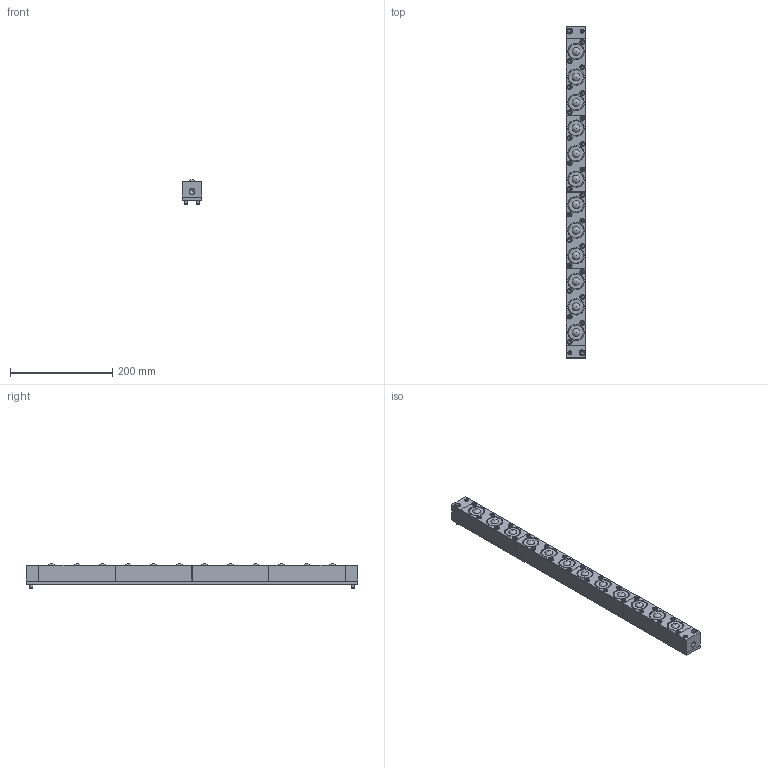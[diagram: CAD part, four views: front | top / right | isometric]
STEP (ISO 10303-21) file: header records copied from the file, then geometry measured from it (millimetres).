
FILE_DESCRIPTION(/* description */ (''),/* implementation_level */ '2;1');
FILE_NAME(/* name */ 'Z:\34-Tei\01-web 3Dデータ\07-ISR-C38型\ISR-C38-650-A.stp',/* time_stamp */ '2015-01-15T15:14:27+09:00',/* author */ ('yamaki'),/* organization */ (''),/* preprocessor_version */ 'ST-DEVELOPER v15.6',/* originating_system */ 'Autodesk Inventor 2015',/* authorisation */ '');
FILE_SCHEMA (('AUTOMOTIVE_DESIGN { 1 0 10303 214 3 1 1 }'));
Length unit declared in the file: millimetre
Products named in the file (5): 4100AT-01-650; JIS B 1176 - M6 x 35; 4501SL-03; 4500AT-00; ISR-C38
Bounding box: 38 x 650 x 48 mm (x, y, z)
Volume: 865284.3 mm3; surface area: 262109.8 mm2
Topology: 19 solids, 19 shells, 572 faces, 1203 edges, 774 vertices
Faces by surface type: plane 365, cylinder 109, cone 44, torus 42, sphere 12
Full cylindrical faces by diameter (mm): 6 x2, 7 x2, 7.5 x2, 8 x2, 8.5 x24, 9.5 x24, 10 x2, 10.5 x1, 11.5 x2, 31.5 x12, 32 x12, 35 x24
Entity records: 4478 total; most frequent: CARTESIAN_POINT 826, DIRECTION 714, ORIENTED_EDGE 602, EDGE_CURVE 301, AXIS2_PLACEMENT_3D 273, EDGE_LOOP 258, VERTEX_POINT 223, FACE_OUTER_BOUND 170
